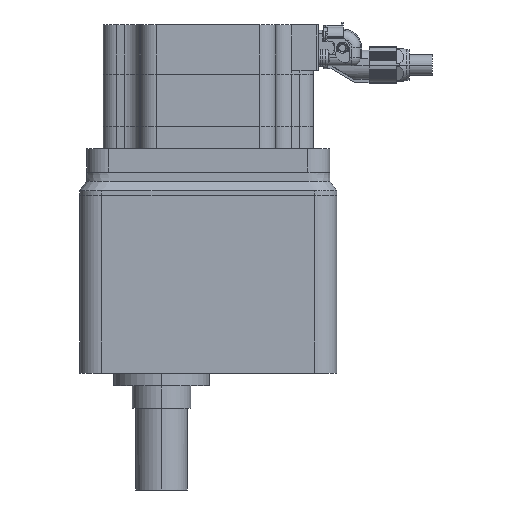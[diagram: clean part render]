
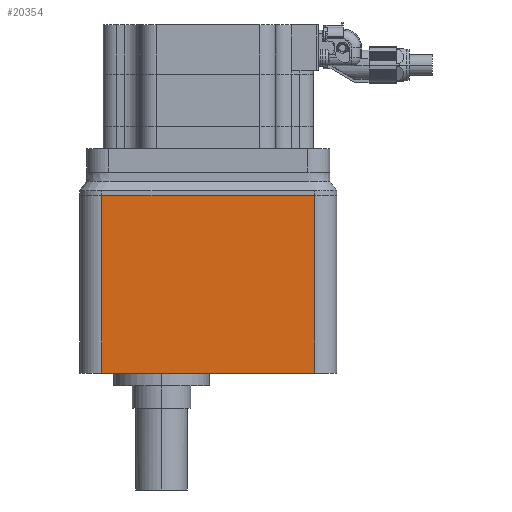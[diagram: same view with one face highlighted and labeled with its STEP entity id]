
A CAD part, left-side view. The second image highlights one B-rep face of the part: STEP entity #20354.
In plain terms, the highlighted planar face has unit normal (-1, 0, 0).
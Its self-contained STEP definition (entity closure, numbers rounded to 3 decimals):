
#1989 = EDGE_CURVE ( 'NONE', #19674, #15903, #8461, .T. ) ;
#2250 = LINE ( 'NONE', #9392, #20931 ) ;
#2497 = ORIENTED_EDGE ( 'NONE', *, *, #21877, .T. ) ;
#3382 = CARTESIAN_POINT ( 'NONE',  ( -55., -55., -165.563 ) ) ;
#3393 = EDGE_LOOP ( 'NONE', ( #20492, #2497, #15700, #16393 ) ) ;
#6187 = EDGE_CURVE ( 'NONE', #15126, #12301, #2250, .T. ) ;
#7367 = DIRECTION ( 'NONE',  ( -1., 0., 0. ) ) ;
#7425 = CARTESIAN_POINT ( 'NONE',  ( -55., -45.5, -165.563 ) ) ;
#7589 = DIRECTION ( 'NONE',  ( 0., 0., 1. ) ) ;
#7648 = LINE ( 'NONE', #7425, #7666 ) ;
#7666 = VECTOR ( 'NONE', #16413, 1000. ) ;
#7840 = CARTESIAN_POINT ( 'NONE',  ( -55., 45.5, -10. ) ) ;
#8461 = LINE ( 'NONE', #20759, #19136 ) ;
#9392 = CARTESIAN_POINT ( 'NONE',  ( -55., -55., -10. ) ) ;
#10201 = DIRECTION ( 'NONE',  ( 0., -1., 0. ) ) ;
#12301 = VERTEX_POINT ( 'NONE', #16007 ) ;
#12628 = CARTESIAN_POINT ( 'NONE',  ( -55., -45.5, -86. ) ) ;
#13538 = CARTESIAN_POINT ( 'NONE',  ( -55., 45.5, -86. ) ) ;
#13881 = LINE ( 'NONE', #15753, #14798 ) ;
#14596 = EDGE_CURVE ( 'NONE', #15903, #12301, #7648, .T. ) ;
#14798 = VECTOR ( 'NONE', #15410, 1000. ) ;
#15126 = VERTEX_POINT ( 'NONE', #7840 ) ;
#15410 = DIRECTION ( 'NONE',  ( 0., 0., -1. ) ) ;
#15512 = AXIS2_PLACEMENT_3D ( 'NONE', #3382, #7367, #7589 ) ;
#15700 = ORIENTED_EDGE ( 'NONE', *, *, #1989, .T. ) ;
#15702 = DIRECTION ( 'NONE',  ( 0., -1., 0. ) ) ;
#15753 = CARTESIAN_POINT ( 'NONE',  ( -55., 45.5, -165.563 ) ) ;
#15903 = VERTEX_POINT ( 'NONE', #12628 ) ;
#16007 = CARTESIAN_POINT ( 'NONE',  ( -55., -45.5, -10. ) ) ;
#16393 = ORIENTED_EDGE ( 'NONE', *, *, #14596, .T. ) ;
#16413 = DIRECTION ( 'NONE',  ( 0., 0., 1. ) ) ;
#19136 = VECTOR ( 'NONE', #15702, 1000. ) ;
#19429 = PLANE ( 'NONE',  #15512 ) ;
#19674 = VERTEX_POINT ( 'NONE', #13538 ) ;
#20354 = ADVANCED_FACE ( 'NONE', ( #21181 ), #19429, .T. ) ;
#20492 = ORIENTED_EDGE ( 'NONE', *, *, #6187, .F. ) ;
#20759 = CARTESIAN_POINT ( 'NONE',  ( -55., -291539.5, -86. ) ) ;
#20931 = VECTOR ( 'NONE', #10201, 1000. ) ;
#21181 = FACE_OUTER_BOUND ( 'NONE', #3393, .T. ) ;
#21877 = EDGE_CURVE ( 'NONE', #15126, #19674, #13881, .T. ) ;
